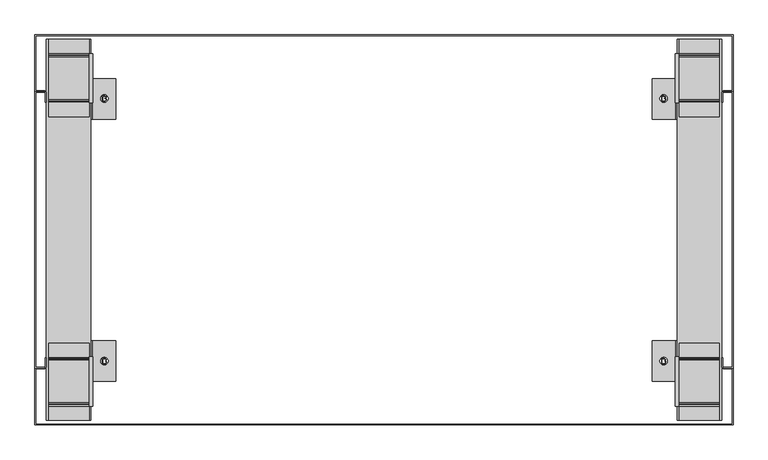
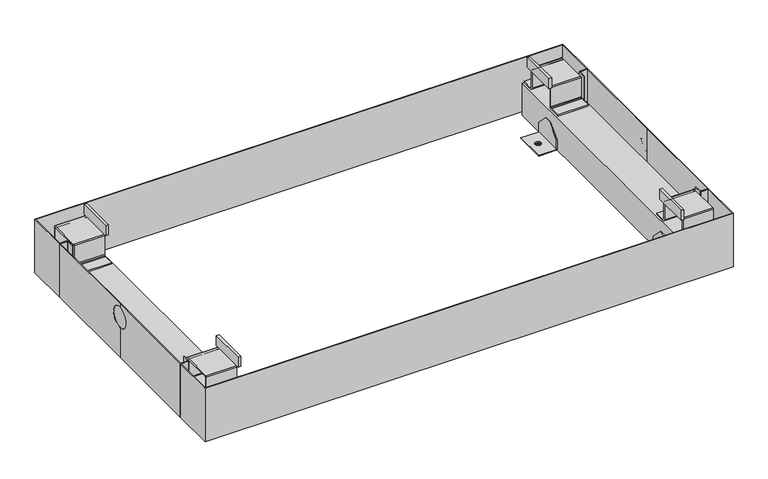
"""IFC4 building model written with IfcOpenShell, lengths in millimetres: proxy geometry, 11783030_EU_APWM028_IG : 59510028_EU_11783030_APWM028_IG."""

from ifc_helpers import new_model, si_unit, point, frame, frame_2d, origin, origin_with_axes, place, context, project, spatial, polyline, circle_curve, trimmed, segment, composite_curve, outline, extrude, source, transform, mapped, element, save
from ifc_brep_helpers import plane_surface, revolved_surface, advanced_brep


def specialty_equipment_e3bb72e8(model_context):
    return source(origin(), model_context, "Body", "SolidModel", [
        advanced_brep(
        [(-779.0, -126.5, 171.8001281), (-779.0, -435.0, 171.8001281), (-779.0, -743.5, 171.8001281), (-757.1000023, -743.5, 171.8001281), (-757.1000023, -742.0, 171.8001281), (-777.5, -742.0, 171.8001281), (-777.5, -435.0, 171.8001281), (-777.5, -128.0, 171.8001281), (-757.1000023, -128.0, 171.8001281), (-757.1000023, -126.5, 171.8001281), (-779.0, -126.5, 5.0069558), (-757.1000023, -126.5, 5.0069558), (-757.1000023, -128.0, 5.0069558), (-777.5, -128.0, 5.0069558), (-777.5, -435.0, 5.0069558), (-777.5, -742.0, 5.0069558), (-757.1000023, -742.0, 5.0069558), (-757.1000023, -743.5, 5.0069558), (-779.0, -743.5, 5.0069558), (-779.0, -435.0, 5.0069558), (-779.0, -435.0, 97.7016111), (-779.0, -402.9849473, 129.7166638), (-779.0, -435.0, 161.7317164), (-779.0, -467.0150527, 129.7166638), (-777.9619558, -467.0150527, 129.7166638), (-777.9619558, -402.9849473, 129.7166638)],
        [
            (0, 1),
            (1, 2),
            (2, 3),
            (3, 4),
            (4, 5),
            (5, 6),
            (6, 7),
            (7, 8),
            (8, 9),
            (9, 0),
            (10, 11),
            (11, 12),
            (12, 13),
            (13, 14),
            (14, 15),
            (15, 16),
            (16, 17),
            (17, 18),
            (18, 19),
            (19, 10),
            (0, 10),
            (19, 20),
            (20, 21, circle_curve(frame((-779.0, -435.0, 129.7166638), z_axis=(1.0, 0.0, 0.0), x_axis=(0.0, 1.0, 0.0)), 32.0150527)),
            (21, 22, circle_curve(frame((-779.0, -435.0, 129.7166638), z_axis=(1.0, 0.0, 0.0), x_axis=(0.0, 1.0, 0.0)), 32.0150527)),
            (22, 1),
            (22, 23, circle_curve(frame((-779.0, -435.0, 129.7166638), z_axis=(1.0, 0.0, 0.0), x_axis=(0.0, 1.0, 0.0)), 32.0150527)),
            (23, 20, circle_curve(frame((-779.0, -435.0, 129.7166638), z_axis=(1.0, 0.0, 0.0), x_axis=(0.0, 1.0, 0.0)), 32.0150527)),
            (18, 2),
            (17, 3),
            (16, 4),
            (15, 5),
            (14, 6),
            (13, 7),
            (12, 8),
            (11, 9),
            (24, 25, circle_curve(frame((-777.9619558, -435.0, 129.7166638), z_axis=(-1.0, 0.0, 0.0), x_axis=(0.0, 1.0, 0.0)), 32.0150527)),
            (25, 24, circle_curve(frame((-777.9619558, -435.0, 129.7166638), z_axis=(-1.0, 0.0, 0.0), x_axis=(0.0, 1.0, 0.0)), 32.0150527)),
            (25, 21),
            (23, 24),
        ],
        [
            plane_surface(frame((-779.0, -126.5, 171.8001281), z_axis=(0.0, 0.0, 1.0), x_axis=(0.0, -1.0, 0.0))),
            plane_surface(frame((-779.0, -126.5, 5.0069558), z_axis=(0.0, 0.0, -1.0), x_axis=(0.0, 1.0, 0.0))),
            plane_surface(frame((-779.0, -126.5, 171.8001281), z_axis=(-1.0, 0.0, 0.0), x_axis=(0.0, 0.0, -1.0))),
            plane_surface(frame((-779.0, -435.0, 171.8001281), z_axis=(-1.0, 0.0, 0.0), x_axis=(0.0, 0.0, -1.0))),
            plane_surface(frame((-779.0, -743.5, 171.8001281), z_axis=(0.0, -1.0, 0.0), x_axis=(0.0, 0.0, -1.0))),
            plane_surface(frame((-757.1000023, -743.5, 171.8001281), z_axis=(1.0, 0.0, 0.0), x_axis=(0.0, 0.0, -1.0))),
            plane_surface(frame((-757.1000023, -742.0, 171.8001281), z_axis=(0.0, 1.0, 0.0), x_axis=(0.0, 0.0, -1.0))),
            plane_surface(frame((-777.5, -742.0, 171.8001281), z_axis=(1.0, 0.0, 0.0), x_axis=(0.0, 0.0, -1.0))),
            plane_surface(frame((-777.5, -435.0, 171.8001281), z_axis=(1.0, 0.0, 0.0), x_axis=(0.0, 0.0, -1.0))),
            plane_surface(frame((-777.5, -128.0, 171.8001281), z_axis=(0.0, -1.0, 0.0), x_axis=(0.0, 0.0, -1.0))),
            plane_surface(frame((-757.1000023, -128.0, 171.8001281), z_axis=(1.0, 0.0, 0.0), x_axis=(0.0, 0.0, -1.0))),
            plane_surface(frame((-757.1000023, -126.5, 171.8001281), z_axis=(0.0, 1.0, 0.0), x_axis=(0.0, 0.0, -1.0))),
            plane_surface(frame((-777.9619558, -402.9849473, 129.7166638), z_axis=(-1.0, 0.0, 0.0), x_axis=(0.0, 0.0, 1.0))),
            revolved_surface(polyline([(-779.0, -402.9849473, 129.7166638), (-777.9619558, -402.9849473, 129.7166638)]), (-777.9619558, -435.0, 129.7166638), (-1.0, 0.0, 0.0)),
        ],
        [
            (0, [[1, 2, 3, 4, 5, 6, 7, 8, 9, 10]]),
            (1, [[11, 12, 13, 14, 15, 16, 17, 18, 19, 20]]),
            (2, [[-1, 21, -20, 22, 23, 24, 25]]),
            (3, [[-2, -25, 26, 27, -22, -19, 28]]),
            (4, [[-3, -28, -18, 29]]),
            (5, [[-4, -29, -17, 30]]),
            (6, [[-5, -30, -16, 31]]),
            (7, [[-6, -31, -15, 32]]),
            (8, [[-7, -32, -14, 33]]),
            (9, [[-8, -33, -13, 34]]),
            (10, [[-9, -34, -12, 35]]),
            (11, [[-10, -35, -11, -21]]),
            (12, [[36, 37]]),
            (13, [[-37, 38, -23, -27, 39]]),
            (13, [[-36, -39, -26, -24, -38]]),
        ],
    ),
        advanced_brep(
        [(779.0, -126.5, 171.8001281), (757.1000023, -126.5, 171.8001281), (757.1000023, -128.0, 171.8001281), (777.5, -128.0, 171.8001281), (777.5, -435.0, 171.8001281), (777.5, -742.0, 171.8001281), (757.1000023, -742.0, 171.8001281), (757.1000023, -743.5, 171.8001281), (779.0, -743.5, 171.8001281), (779.0, -435.0, 171.8001281), (779.0, -126.5, 5.0069558), (779.0, -435.0, 5.0069558), (779.0, -743.5, 5.0069558), (757.1000023, -743.5, 5.0069558), (757.1000023, -742.0, 5.0069558), (777.5, -742.0, 5.0069558), (777.5, -435.0, 5.0069558), (777.5, -128.0, 5.0069558), (757.1000023, -128.0, 5.0069558), (757.1000023, -126.5, 5.0069558), (779.0, -435.0, 161.7317164), (779.0, -402.9849473, 129.7166638), (779.0, -435.0, 97.7016111), (779.0, -467.0150527, 129.7166638), (777.9619558, -467.0150527, 129.7166638), (777.9619558, -402.9849473, 129.7166638)],
        [
            (0, 1),
            (1, 2),
            (2, 3),
            (3, 4),
            (4, 5),
            (5, 6),
            (6, 7),
            (7, 8),
            (8, 9),
            (9, 0),
            (10, 11),
            (11, 12),
            (12, 13),
            (13, 14),
            (14, 15),
            (15, 16),
            (16, 17),
            (17, 18),
            (18, 19),
            (19, 10),
            (9, 20),
            (20, 21, circle_curve(frame((779.0, -435.0, 129.7166638), z_axis=(-1.0, 0.0, 0.0), x_axis=(0.0, 1.0, 0.0)), 32.0150527)),
            (21, 22, circle_curve(frame((779.0, -435.0, 129.7166638), z_axis=(-1.0, 0.0, 0.0), x_axis=(0.0, 1.0, 0.0)), 32.0150527)),
            (22, 11),
            (10, 0),
            (8, 12),
            (22, 23, circle_curve(frame((779.0, -435.0, 129.7166638), z_axis=(-1.0, 0.0, 0.0), x_axis=(0.0, 1.0, 0.0)), 32.0150527)),
            (23, 20, circle_curve(frame((779.0, -435.0, 129.7166638), z_axis=(-1.0, 0.0, 0.0), x_axis=(0.0, 1.0, 0.0)), 32.0150527)),
            (7, 13),
            (6, 14),
            (5, 15),
            (4, 16),
            (3, 17),
            (2, 18),
            (1, 19),
            (24, 25, circle_curve(frame((777.9619558, -435.0, 129.7166638), z_axis=(1.0, 0.0, 0.0), x_axis=(0.0, 1.0, 0.0)), 32.0150527)),
            (25, 24, circle_curve(frame((777.9619558, -435.0, 129.7166638), z_axis=(1.0, 0.0, 0.0), x_axis=(0.0, 1.0, 0.0)), 32.0150527)),
            (24, 23),
            (21, 25),
        ],
        [
            plane_surface(frame((757.1000023, -126.5, 171.8001281), z_axis=(0.0, 0.0, 1.0), x_axis=(-1.0, 0.0, 0.0))),
            plane_surface(frame((757.1000023, -126.5, 5.0069558), z_axis=(0.0, 0.0, -1.0), x_axis=(1.0, 0.0, 0.0))),
            plane_surface(frame((779.0, -435.0, 171.8001281), z_axis=(1.0, 0.0, 0.0), x_axis=(0.0, 0.0, -1.0))),
            plane_surface(frame((779.0, -743.5, 171.8001281), z_axis=(1.0, 0.0, 0.0), x_axis=(0.0, 0.0, -1.0))),
            plane_surface(frame((757.1000023, -743.5, 171.8001281), z_axis=(0.0, -1.0, 0.0), x_axis=(0.0, 0.0, -1.0))),
            plane_surface(frame((757.1000023, -742.0, 171.8001281), z_axis=(-1.0, 0.0, 0.0), x_axis=(0.0, 0.0, -1.0))),
            plane_surface(frame((777.5, -742.0, 171.8001281), z_axis=(0.0, 1.0, 0.0), x_axis=(0.0, 0.0, -1.0))),
            plane_surface(frame((777.5, -435.0, 171.8001281), z_axis=(-1.0, 0.0, 0.0), x_axis=(0.0, 0.0, -1.0))),
            plane_surface(frame((777.5, -128.0, 171.8001281), z_axis=(-1.0, 0.0, 0.0), x_axis=(0.0, 0.0, -1.0))),
            plane_surface(frame((757.1000023, -128.0, 171.8001281), z_axis=(0.0, -1.0, 0.0), x_axis=(0.0, 0.0, -1.0))),
            plane_surface(frame((757.1000023, -126.5, 171.8001281), z_axis=(-1.0, 0.0, 0.0), x_axis=(0.0, 0.0, -1.0))),
            plane_surface(frame((779.0, -126.5, 171.8001281), z_axis=(0.0, 1.0, 0.0), x_axis=(0.0, 0.0, -1.0))),
            plane_surface(frame((777.9619558, -402.9849473, 129.7166638), z_axis=(1.0, 0.0, 0.0), x_axis=(0.0, 0.0, -1.0))),
            revolved_surface(polyline([(779.0, -402.9849473, 129.7166638), (777.9619558, -402.9849473, 129.7166638)]), (777.9619558, -435.0, 129.7166638), (1.0, 0.0, 0.0)),
        ],
        [
            (0, [[1, 2, 3, 4, 5, 6, 7, 8, 9, 10]]),
            (1, [[11, 12, 13, 14, 15, 16, 17, 18, 19, 20]]),
            (2, [[-10, 21, 22, 23, 24, -11, 25]]),
            (3, [[-9, 26, -12, -24, 27, 28, -21]]),
            (4, [[-8, 29, -13, -26]]),
            (5, [[-7, 30, -14, -29]]),
            (6, [[-6, 31, -15, -30]]),
            (7, [[-5, 32, -16, -31]]),
            (8, [[-4, 33, -17, -32]]),
            (9, [[-3, 34, -18, -33]]),
            (10, [[-2, 35, -19, -34]]),
            (11, [[-1, -25, -20, -35]]),
            (12, [[36, 37]]),
            (13, [[-36, 38, -27, -23, 39]]),
            (13, [[-37, -39, -22, -28, -38]]),
        ],
    ),
        extrude(outline(polyline([(654.0478439, -682.1946793), (654.0478439, -772.5500183), (599.0, -772.5500183), (599.0, -682.1946793), (654.0478439, -682.1946793)]), holes=[composite_curve([segment(trimmed(circle_curve(frame_2d((624.0, -728.0)), 8.4700909), [point((615.5299091, -728.0))], [point((632.4700909, -728.0))], True, "CARTESIAN"), True, "CONTINUOUS"), segment(trimmed(circle_curve(frame_2d((624.0, -728.0)), 8.4700909), [point((632.4700909, -728.0))], [point((615.5299091, -728.0))], True, "CARTESIAN"), True, "CONTINUOUS")], self_intersect=False)]), origin_with_axes(), (0.0, 0.0, 1.0), 2.452137),
        extrude(outline(polyline([(654.0478439, -187.8053207), (599.0, -187.8053207), (599.0, -97.4499817), (654.0478439, -97.4499817), (654.0478439, -187.8053207)]), holes=[composite_curve([segment(trimmed(circle_curve(frame_2d((624.0, -142.0)), 8.4700909), [point((632.4700909, -142.0))], [point((615.5299091, -142.0))], True, "CARTESIAN"), True, "CONTINUOUS"), segment(trimmed(circle_curve(frame_2d((624.0, -142.0)), 8.4700909), [point((615.5299091, -142.0))], [point((632.4700909, -142.0))], True, "CARTESIAN"), True, "CONTINUOUS")], self_intersect=False)]), origin_with_axes(), (0.0, 0.0, 1.0), 2.452137),
        extrude(outline(polyline([(658.0, -151.5), (650.0478439, -151.5), (650.0478439, -41.5), (658.0, -41.5), (658.0, -151.5)])), frame((0.0, 0.0, 169.8569783), z_axis=(0.0, 0.0, 1.0), x_axis=(1.0, 0.0, 0.0)), (0.0, 0.0, 1.0), 31.1430217),
        extrude(outline(polyline([(650.0478439, -718.5), (658.0, -718.5), (658.0, -828.5), (650.0478439, -828.5), (650.0478439, -718.5)])), frame((0.0, 0.0, 169.8569783), z_axis=(0.0, 0.0, 1.0), x_axis=(1.0, 0.0, 0.0)), (0.0, 0.0, 1.0), 31.1430217),
        extrude(outline(polyline([(-658.0, -718.5), (-650.0478439, -718.5), (-650.0478439, -828.5), (-658.0, -828.5), (-658.0, -718.5)])), frame((0.0, 0.0, 169.8569783), z_axis=(0.0, 0.0, 1.0), x_axis=(1.0, 0.0, 0.0)), (0.0, 0.0, 1.0), 31.1430217),
        extrude(outline(polyline([(-650.0478439, -151.5), (-658.0, -151.5), (-658.0, -41.5), (-650.0478439, -41.5), (-650.0478439, -151.5)])), frame((0.0, 0.0, 169.8569783), z_axis=(0.0, 0.0, 1.0), x_axis=(1.0, 0.0, 0.0)), (0.0, 0.0, 1.0), 31.1430217),
        extrude(outline(composite_curve([segment(polyline([(-827.5, 100.0), (-860.0, 100.0), (-860.0, 104.0), (-828.2053079, 104.0), (-824.5823269, 105.3186573), (-823.1075028, 108.4814277), (-823.1075028, 166.8569783)]), True, "CONTINUOUS"), segment(trimmed(circle_curve(frame_2d((-820.1075028, 166.8569783)), 3.0), [point((-823.1075028, 166.8569783))], [point((-820.1075028, 169.8569783))], False, "CARTESIAN"), True, "CONTINUOUS"), segment(polyline([(-820.1075028, 169.8569783), (-726.3723488, 169.8569783)]), True, "CONTINUOUS"), segment(trimmed(circle_curve(frame_2d((-726.3723488, 166.8569783)), 3.0), [point((-726.3723488, 169.8569783))], [point((-723.3723488, 166.8569783))], False, "CARTESIAN"), True, "CONTINUOUS"), segment(polyline([(-723.3723488, 166.8569783), (-723.3723488, 108.3971605), (-722.2811907, 105.3992283), (-719.2805359, 104.0), (-687.6000061, 104.0), (-687.6000061, 100.0), (-720.1673145, 100.0), (-725.4732837, 102.4742141), (-727.3723488, 107.6918526), (-727.3723488, 162.8569783)]), True, "CONTINUOUS"), segment(trimmed(circle_curve(frame_2d((-730.3723488, 162.8569783)), 3.0), [point((-727.3723488, 162.8569783))], [point((-730.3723488, 165.8569783))], True, "CARTESIAN"), True, "CONTINUOUS"), segment(polyline([(-730.3723488, 165.8569783), (-816.1075028, 165.8569783)]), True, "CONTINUOUS"), segment(trimmed(circle_curve(frame_2d((-816.1075028, 162.8569783)), 3.0), [point((-816.1075028, 165.8569783))], [point((-819.1075028, 162.8569783))], True, "CARTESIAN"), True, "CONTINUOUS"), segment(polyline([(-819.1075028, 162.8569783), (-819.1075028, 107.594649), (-821.6573126, 102.1265643), (-827.5, 100.0)]), True, "CONTINUOUS")], self_intersect=False)), frame((659.0, 0.0, 0.0), z_axis=(1.0, 0.0, 0.0), x_axis=(0.0, 1.0, 0.0)), (0.0, 0.0, 1.0), 89.0),
        extrude(outline(composite_curve([segment(polyline([(-42.5, 100.0), (-48.3426874, 102.1265643), (-50.8924972, 107.594649), (-50.8924972, 162.8569783)]), True, "CONTINUOUS"), segment(trimmed(circle_curve(frame_2d((-53.8924972, 162.8569783)), 3.0), [point((-50.8924972, 162.8569783))], [point((-53.8924972, 165.8569783))], True, "CARTESIAN"), True, "CONTINUOUS"), segment(polyline([(-53.8924972, 165.8569783), (-139.6276512, 165.8569783)]), True, "CONTINUOUS"), segment(trimmed(circle_curve(frame_2d((-139.6276512, 162.8569783)), 3.0), [point((-139.6276512, 165.8569783))], [point((-142.6276512, 162.8569783))], True, "CARTESIAN"), True, "CONTINUOUS"), segment(polyline([(-142.6276512, 162.8569783), (-142.6276512, 107.6918526), (-144.5267163, 102.4742141), (-149.8326855, 100.0), (-182.3999939, 100.0), (-182.3999939, 104.0), (-150.7194641, 104.0), (-147.7188093, 105.3992283), (-146.6276512, 108.3971605), (-146.6276512, 166.8569783)]), True, "CONTINUOUS"), segment(trimmed(circle_curve(frame_2d((-143.6276512, 166.8569783)), 3.0), [point((-146.6276512, 166.8569783))], [point((-143.6276512, 169.8569783))], False, "CARTESIAN"), True, "CONTINUOUS"), segment(polyline([(-143.6276512, 169.8569783), (-49.8924972, 169.8569783)]), True, "CONTINUOUS"), segment(trimmed(circle_curve(frame_2d((-49.8924972, 166.8569783)), 3.0), [point((-49.8924972, 169.8569783))], [point((-46.8924972, 166.8569783))], False, "CARTESIAN"), True, "CONTINUOUS"), segment(polyline([(-46.8924972, 166.8569783), (-46.8924972, 108.4814277), (-45.4176731, 105.3186573), (-41.7946921, 104.0), (-10.0, 104.0), (-10.0, 100.0), (-42.5, 100.0)]), True, "CONTINUOUS")], self_intersect=False)), frame((659.0, 0.0, 0.0), z_axis=(1.0, 0.0, 0.0), x_axis=(0.0, 1.0, 0.0)), (0.0, 0.0, 1.0), 89.0),
        extrude(outline(composite_curve([segment(polyline([(-42.5, 100.0), (-48.3426874, 102.1265643), (-50.8924972, 107.594649), (-50.8924972, 162.8569783)]), True, "CONTINUOUS"), segment(trimmed(circle_curve(frame_2d((-53.8924972, 162.8569783)), 3.0), [point((-50.8924972, 162.8569783))], [point((-53.8924972, 165.8569783))], True, "CARTESIAN"), True, "CONTINUOUS"), segment(polyline([(-53.8924972, 165.8569783), (-139.6276512, 165.8569783)]), True, "CONTINUOUS"), segment(trimmed(circle_curve(frame_2d((-139.6276512, 162.8569783)), 3.0), [point((-139.6276512, 165.8569783))], [point((-142.6276512, 162.8569783))], True, "CARTESIAN"), True, "CONTINUOUS"), segment(polyline([(-142.6276512, 162.8569783), (-142.6276512, 107.6918526), (-144.5267163, 102.4742141), (-149.8326855, 100.0), (-182.3999939, 100.0), (-182.3999939, 104.0), (-150.7194641, 104.0), (-147.7188093, 105.3992283), (-146.6276512, 108.3971605), (-146.6276512, 166.8569783)]), True, "CONTINUOUS"), segment(trimmed(circle_curve(frame_2d((-143.6276512, 166.8569783)), 3.0), [point((-146.6276512, 166.8569783))], [point((-143.6276512, 169.8569783))], False, "CARTESIAN"), True, "CONTINUOUS"), segment(polyline([(-143.6276512, 169.8569783), (-49.8924972, 169.8569783)]), True, "CONTINUOUS"), segment(trimmed(circle_curve(frame_2d((-49.8924972, 166.8569783)), 3.0), [point((-49.8924972, 169.8569783))], [point((-46.8924972, 166.8569783))], False, "CARTESIAN"), True, "CONTINUOUS"), segment(polyline([(-46.8924972, 166.8569783), (-46.8924972, 108.4814277), (-45.4176731, 105.3186573), (-41.7946921, 104.0), (-10.0, 104.0), (-10.0, 100.0), (-42.5, 100.0)]), True, "CONTINUOUS")], self_intersect=False)), frame((-748.0478439, 0.0, 0.0), z_axis=(1.0, 0.0, 0.0), x_axis=(0.0, 1.0, 0.0)), (0.0, 0.0, 1.0), 90.0478439),
        extrude(outline(composite_curve([segment(polyline([(-827.5, 100.0), (-860.0, 100.0), (-860.0, 104.0), (-828.2053079, 104.0), (-824.5823269, 105.3186573), (-823.1075028, 108.4814277), (-823.1075028, 166.8569783)]), True, "CONTINUOUS"), segment(trimmed(circle_curve(frame_2d((-820.1075028, 166.8569783)), 3.0), [point((-823.1075028, 166.8569783))], [point((-820.1075028, 169.8569783))], False, "CARTESIAN"), True, "CONTINUOUS"), segment(polyline([(-820.1075028, 169.8569783), (-726.3723488, 169.8569783)]), True, "CONTINUOUS"), segment(trimmed(circle_curve(frame_2d((-726.3723488, 166.8569783)), 3.0), [point((-726.3723488, 169.8569783))], [point((-723.3723488, 166.8569783))], False, "CARTESIAN"), True, "CONTINUOUS"), segment(polyline([(-723.3723488, 166.8569783), (-723.3723488, 108.3971605), (-722.2811907, 105.3992283), (-719.2805359, 104.0), (-687.6000061, 104.0), (-687.6000061, 100.0), (-720.1673145, 100.0), (-725.4732837, 102.4742141), (-727.3723488, 107.6918526), (-727.3723488, 162.8569783)]), True, "CONTINUOUS"), segment(trimmed(circle_curve(frame_2d((-730.3723488, 162.8569783)), 3.0), [point((-727.3723488, 162.8569783))], [point((-730.3723488, 165.8569783))], True, "CARTESIAN"), True, "CONTINUOUS"), segment(polyline([(-730.3723488, 165.8569783), (-816.1075028, 165.8569783)]), True, "CONTINUOUS"), segment(trimmed(circle_curve(frame_2d((-816.1075028, 162.8569783)), 3.0), [point((-816.1075028, 165.8569783))], [point((-819.1075028, 162.8569783))], True, "CARTESIAN"), True, "CONTINUOUS"), segment(polyline([(-819.1075028, 162.8569783), (-819.1075028, 107.594649), (-821.6573126, 102.1265643), (-827.5, 100.0)]), True, "CONTINUOUS")], self_intersect=False)), frame((-748.0478439, 0.0, 0.0), z_axis=(1.0, 0.0, 0.0), x_axis=(0.0, 1.0, 0.0)), (0.0, 0.0, 1.0), 90.0478439),
        extrude(outline(polyline([(-654.0478439, -187.8053207), (-654.0478439, -97.4499817), (-599.0, -97.4499817), (-599.0, -187.8053207), (-654.0478439, -187.8053207)]), holes=[composite_curve([segment(trimmed(circle_curve(frame_2d((-624.0, -142.0)), 8.4700909), [point((-615.5299091, -142.0))], [point((-632.4700909, -142.0))], True, "CARTESIAN"), True, "CONTINUOUS"), segment(trimmed(circle_curve(frame_2d((-624.0, -142.0)), 8.4700909), [point((-632.4700909, -142.0))], [point((-615.5299091, -142.0))], True, "CARTESIAN"), True, "CONTINUOUS")], self_intersect=False)]), origin_with_axes(), (0.0, 0.0, 1.0), 2.452137),
        extrude(outline(polyline([(-654.0478439, -682.1946793), (-599.0, -682.1946793), (-599.0, -772.5500183), (-654.0478439, -772.5500183), (-654.0478439, -682.1946793)]), holes=[composite_curve([segment(trimmed(circle_curve(frame_2d((-624.0, -728.0)), 8.4700909), [point((-632.4700909, -728.0))], [point((-615.5299091, -728.0))], True, "CARTESIAN"), True, "CONTINUOUS"), segment(trimmed(circle_curve(frame_2d((-624.0, -728.0)), 8.4700909), [point((-615.5299091, -728.0))], [point((-632.4700909, -728.0))], True, "CARTESIAN"), True, "CONTINUOUS")], self_intersect=False)]), origin_with_axes(), (0.0, 0.0, 1.0), 2.452137),
        extrude(outline(polyline([(-772.5500183, 31.9500008), (-737.5500183, 66.9500008), (-717.5500183, 66.9500008), (-682.1946793, 31.5946617), (-682.1946793, 0.0), (-772.5500183, 0.0), (-772.5500183, 31.9500008)])), frame((651.5478439, 0.0, 0.0), z_axis=(1.0, 0.0, 0.0), x_axis=(0.0, 1.0, 0.0)), (0.0, 0.0, 1.0), 2.5),
        extrude(outline(polyline([(-97.4499817, 31.9500008), (-97.4499817, 0.0), (-187.8053207, 0.0), (-187.8053207, 31.5946617), (-152.4499817, 66.9500008), (-132.4499817, 66.9500008), (-97.4499817, 31.9500008)])), frame((651.5478439, 0.0, 0.0), z_axis=(1.0, 0.0, 0.0), x_axis=(0.0, 1.0, 0.0)), (0.0, 0.0, 1.0), 2.5),
        extrude(outline(polyline([(-97.4499817, 31.9500008), (-97.4499817, 0.0), (-187.8053207, 0.0), (-187.8053207, 31.5946617), (-152.4499817, 66.9500008), (-132.4499817, 66.9500008), (-97.4499817, 31.9500008)])), frame((-654.0478439, 0.0, 0.0), z_axis=(1.0, 0.0, 0.0), x_axis=(0.0, 1.0, 0.0)), (0.0, 0.0, 1.0), 2.5),
        extrude(outline(polyline([(-772.5500183, 31.9500008), (-737.5500183, 66.9500008), (-717.5500183, 66.9500008), (-682.1946793, 31.5946617), (-682.1946793, 0.0), (-772.5500183, 0.0), (-772.5500183, 31.9500008)])), frame((-654.0478439, 0.0, 0.0), z_axis=(1.0, 0.0, 0.0), x_axis=(0.0, 1.0, 0.0)), (0.0, 0.0, 1.0), 2.5),
        extrude(outline(polyline([(654.0478439, -10.0), (754.0478439, -10.0), (754.0478439, -860.0), (654.0478439, -860.0), (654.0478439, -10.0)])), origin_with_axes(), (0.0, 0.0, 1.0), 100.0),
        extrude(outline(polyline([(-654.0478439, -10.0), (-654.0478439, -860.0), (-754.0478439, -860.0), (-754.0478439, -10.0), (-654.0478439, -10.0)])), origin_with_axes(), (0.0, 0.0, 1.0), 100.0),
        extrude(outline(polyline([(779.0, 0.0), (779.0, -126.5), (757.0952676, -126.5), (755.5956955, -128.0999756), (755.5956955, -150.0), (754.0956955, -150.0), (754.0956955, -128.0999756), (757.1956711, -125.0), (777.5, -125.0), (777.5, -1.5), (-777.5, -1.5), (-777.5, -125.0), (-757.1956711, -125.0), (-754.0956955, -128.0999756), (-754.0956955, -150.0), (-755.5956955, -150.0), (-755.5956955, -128.0999756), (-757.0952676, -126.5), (-779.0, -126.5), (-779.0, 0.0), (779.0, 0.0)])), frame((0.0, 0.0, 5.0069558), z_axis=(0.0, 0.0, 1.0), x_axis=(1.0, 0.0, 0.0)), (0.0, 0.0, 1.0), 166.7931723),
        extrude(outline(polyline([(779.0, -870.0), (-779.0, -870.0), (-779.0, -743.5), (-757.0952676, -743.5), (-755.5956955, -741.9000244), (-755.5956955, -720.0), (-754.0956955, -720.0), (-754.0956955, -741.9000244), (-757.1956711, -745.0), (-777.5, -745.0), (-777.5, -868.5), (777.5, -868.5), (777.5, -745.0), (757.1956711, -745.0), (754.0956955, -741.9000244), (754.0956955, -720.0), (755.5956955, -720.0), (755.5956955, -741.9000244), (757.0952676, -743.5), (779.0, -743.5), (779.0, -870.0)])), frame((0.0, 0.0, 5.0069558), z_axis=(0.0, 0.0, 1.0), x_axis=(1.0, 0.0, 0.0)), (0.0, 0.0, 1.0), 166.7931723),
        extrude(outline(polyline([(-628.2380006, -734.0547572), (-628.2380006, -722.0), (-623.6380041, -722.0), (-621.3850948, -722.3546382), (-620.0548335, -723.4450405), (-619.5736438, -724.9872018), (-619.978314, -726.3954541), (-621.2011538, -727.4623119), (-619.716382, -728.5865592), (-619.1969327, -730.4612859), (-619.5515709, -732.0814382), (-620.4300731, -733.2351161), (-621.7412045, -733.8472718), (-623.6733208, -734.0547572), (-628.2380006, -734.0547572)]), holes=[polyline([(-626.7311559, -726.8972451), (-623.9793986, -726.8972451), (-622.3724901, -726.7677507), (-621.4056962, -726.2100416), (-621.0804885, -725.2285324), (-621.3836233, -724.2455517), (-622.2518248, -723.6642981), (-624.1883556, -723.5068447), (-626.7311559, -723.5068447), (-626.7311559, -726.8972451)]), polyline([(-626.7311559, -732.5479126), (-623.6409472, -732.5479126), (-622.5225859, -732.4890514), (-621.5763934, -732.1609007), (-620.9495225, -731.4913555), (-620.7037773, -730.4760012), (-620.9921968, -729.3046649), (-621.9266171, -728.6056891), (-623.7881, -728.4040898), (-626.7311559, -728.4040898), (-626.7311559, -732.5479126)])]), frame((0.0, 0.0, -1.0), z_axis=(0.0, 0.0, 1.0), x_axis=(1.0, 0.0, 0.0)), (0.0, 0.0, 1.0), 1.0),
        extrude(outline(polyline([(619.7619994, -734.0547572), (619.7619994, -722.0), (624.3619959, -722.0), (626.6149052, -722.3546382), (627.9451665, -723.4450405), (628.4263562, -724.9872018), (628.021686, -726.3954541), (626.7988462, -727.4623119), (628.283618, -728.5865592), (628.8030673, -730.4612859), (628.4484291, -732.0814382), (627.5699269, -733.2351161), (626.2587955, -733.8472718), (624.3266792, -734.0547572), (619.7619994, -734.0547572)]), holes=[polyline([(621.2688441, -726.8972451), (624.0206014, -726.8972451), (625.6275099, -726.7677507), (626.5943038, -726.2100416), (626.9195115, -725.2285324), (626.6163767, -724.2455517), (625.7481752, -723.6642981), (623.8116444, -723.5068447), (621.2688441, -723.5068447), (621.2688441, -726.8972451)]), polyline([(621.2688441, -732.5479126), (624.3590528, -732.5479126), (625.4774141, -732.4890514), (626.4236066, -732.1609007), (627.0504775, -731.4913555), (627.2962227, -730.4760012), (627.0078032, -729.3046649), (626.0733829, -728.6056891), (624.2119, -728.4040898), (621.2688441, -728.4040898), (621.2688441, -732.5479126)])]), frame((0.0, 0.0, -1.0), z_axis=(0.0, 0.0, 1.0), x_axis=(1.0, 0.0, 0.0)), (0.0, 0.0, 1.0), 1.0),
        extrude(outline(polyline([(619.7619994, -148.0), (619.7619994, -135.9452428), (624.3619959, -135.9452428), (626.6149052, -136.299881), (627.9451665, -137.3902833), (628.4263562, -138.9324446), (628.021686, -140.3406969), (626.7988462, -141.4075546), (628.283618, -142.531802), (628.8030673, -144.4065287), (628.4484291, -146.026681), (627.5699269, -147.1803589), (626.2587955, -147.7925146), (624.3266792, -148.0), (619.7619994, -148.0)]), holes=[polyline([(621.2688441, -140.8424879), (624.0206014, -140.8424879), (625.6275099, -140.7129934), (626.5943038, -140.1552843), (626.9195115, -139.1737752), (626.6163767, -138.1907945), (625.7481752, -137.6095409), (623.8116444, -137.4520874), (621.2688441, -137.4520874), (621.2688441, -140.8424879)]), polyline([(621.2688441, -146.4931553), (624.3590528, -146.4931553), (625.4774141, -146.4342942), (626.4236066, -146.1061435), (627.0504775, -145.4365983), (627.2962227, -144.421244), (627.0078032, -143.2499077), (626.0733829, -142.5509319), (624.2119, -142.3493326), (621.2688441, -142.3493326), (621.2688441, -146.4931553)])]), frame((0.0, 0.0, -1.0), z_axis=(0.0, 0.0, 1.0), x_axis=(1.0, 0.0, 0.0)), (0.0, 0.0, 1.0), 1.0),
        extrude(outline(polyline([(-628.2380006, -148.0), (-628.2380006, -135.9452428), (-623.6380041, -135.9452428), (-621.3850948, -136.299881), (-620.0548335, -137.3902833), (-619.5736438, -138.9324446), (-619.978314, -140.3406969), (-621.2011538, -141.4075546), (-619.716382, -142.531802), (-619.1969327, -144.4065287), (-619.5515709, -146.026681), (-620.4300731, -147.1803589), (-621.7412045, -147.7925146), (-623.6733208, -148.0), (-628.2380006, -148.0)]), holes=[polyline([(-626.7311559, -140.8424879), (-623.9793986, -140.8424879), (-622.3724901, -140.7129934), (-621.4056962, -140.1552843), (-621.0804885, -139.1737752), (-621.3836233, -138.1907945), (-622.2518248, -137.6095409), (-624.1883556, -137.4520874), (-626.7311559, -137.4520874), (-626.7311559, -140.8424879)]), polyline([(-626.7311559, -146.4931553), (-623.6409472, -146.4931553), (-622.5225859, -146.4342942), (-621.5763934, -146.1061435), (-620.9495225, -145.4365983), (-620.7037773, -144.421244), (-620.9921968, -143.2499077), (-621.9266171, -142.5509319), (-623.7881, -142.3493326), (-626.7311559, -142.3493326), (-626.7311559, -146.4931553)])]), frame((0.0, 0.0, -1.0), z_axis=(0.0, 0.0, 1.0), x_axis=(1.0, 0.0, 0.0)), (0.0, 0.0, 1.0), 1.0),
    ])


if __name__ == "__main__":
    model = new_model("IFC4")
    model_context = context("Model", 3, world=origin())
    ifc_project = project(units=[si_unit("LENGTHUNIT", "METRE", prefix="MILLI")], contexts=[model_context])
    site = spatial("IfcSite", under=ifc_project)
    building = spatial("IfcBuilding", under=site)
    placement = place(None, origin())
    specialty_equipment_shape = specialty_equipment_e3bb72e8(model_context)
    element("IfcBuildingElementProxy", 1, Name="11783030_EU_APWM028_IG : 59510028_EU_11783030_APWM028_IG", ObjectType="11783030_EU_APWM028_IG : 59510028_EU_11783030_APWM028_IG", at=placement, inside=building, context=model_context, shape_type="MappedRepresentation", body=[
        mapped(specialty_equipment_shape, transform((0.0, 0.0, 0.0), x_axis=(1.0, 0.0, 0.0), y_axis=(0.0, 1.0, 0.0), z_axis=(0.0, 0.0, 1.0))),
    ])
    save(model, "model.ifc")
